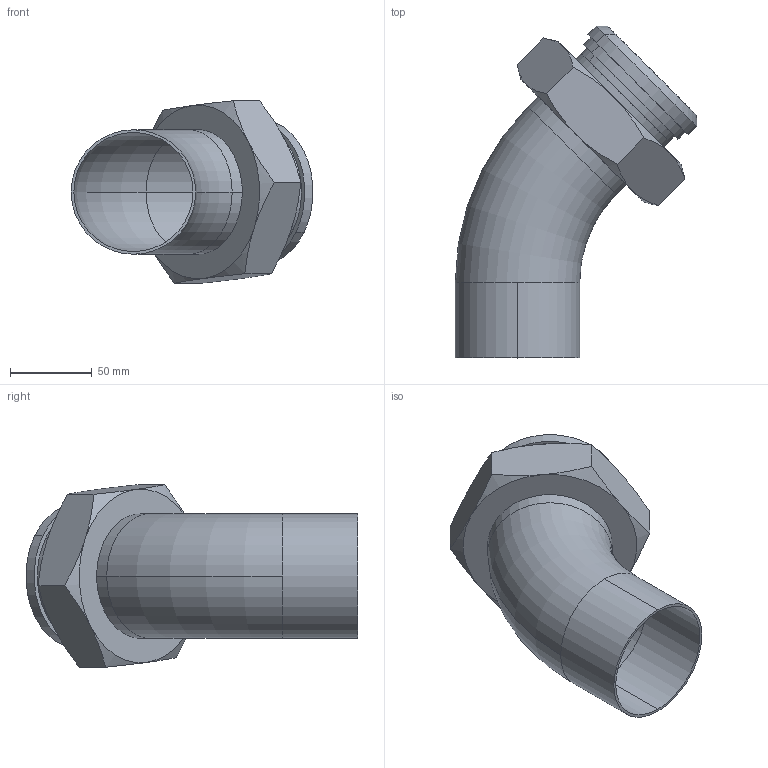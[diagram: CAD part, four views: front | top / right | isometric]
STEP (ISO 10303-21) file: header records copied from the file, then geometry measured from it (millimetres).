
FILE_DESCRIPTION (( 'STEP AP203' ), '1' );
FILE_NAME ('E2KP3.0.STEP', '2018-05-02T17:41:05', ( 'vneprd' ), ( 'Microsoft' ), 'SwSTEP 2.0', 'SolidWorks 2014', '' );
FILE_SCHEMA (( 'CONFIG_CONTROL_DESIGN' ));
Length unit declared in the file: inch
Products named in the file (4): 13H3.0_44575K115; E2KP3.0; E2KS3.0; 14PR3.0
Assembly tree (3 placements, depth 2):
  E2KP3.0
    E2KS3.0
    14PR3.0
    13H3.0_44575K115
Bounding box: 147.89 x 203.15 x 111.72 mm (x, y, z)
Volume: 217700.7 mm3; surface area: 135101.8 mm2
Topology: 3 solids, 3 shells, 87 faces, 214 edges, 136 vertices
Faces by surface type: cylinder 47, plane 17, cone 17, torus 4, bspline 2
Entity records: 4038 total; most frequent: CARTESIAN_POINT 1716, ORIENTED_EDGE 428, DIRECTION 384, EDGE_CURVE 214, AXIS2_PLACEMENT_3D 162, VERTEX_POINT 136, EDGE_LOOP 96, ADVANCED_FACE 87
